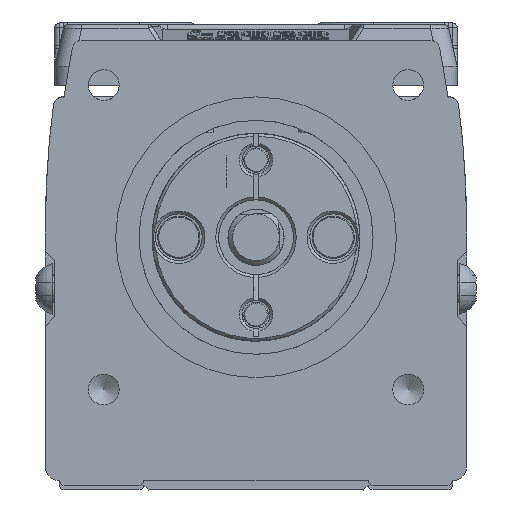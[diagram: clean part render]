
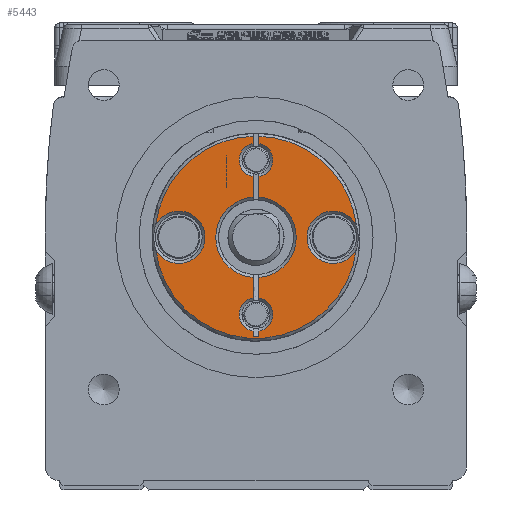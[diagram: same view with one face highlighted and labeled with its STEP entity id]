
A CAD part, left-side view. The second image highlights one B-rep face of the part: STEP entity #5443.
In plain terms, the highlighted planar face has unit normal (-1, 0, 0) as drawn and (1, 0, 0) by its records, which use the part's own axes.
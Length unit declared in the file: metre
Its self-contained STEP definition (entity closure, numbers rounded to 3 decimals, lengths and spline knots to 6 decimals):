
#5443=ADVANCED_FACE('',(#10995),#10996,.F.);
#10995=FACE_OUTER_BOUND('',#19060,.T.);
#10996=PLANE('',#19061);
#19060=EDGE_LOOP('',(#31991,#31992,#31993,#31994,#31995,#31996,#31997,#31998,#31999,#32000,#32001,#32002,#32003,#32004,#32005,#32006,#32007,#32008,#32009,#32010));
#19061=AXIS2_PLACEMENT_3D('',#32011,#32012,#32013);
#31991=ORIENTED_EDGE('',*,*,#42573,.F.);
#31992=ORIENTED_EDGE('',*,*,#42574,.T.);
#31993=ORIENTED_EDGE('',*,*,#42575,.F.);
#31994=ORIENTED_EDGE('',*,*,#41158,.F.);
#31995=ORIENTED_EDGE('',*,*,#38503,.T.);
#31996=ORIENTED_EDGE('',*,*,#42576,.T.);
#31997=ORIENTED_EDGE('',*,*,#42577,.F.);
#31998=ORIENTED_EDGE('',*,*,#39717,.F.);
#31999=ORIENTED_EDGE('',*,*,#42578,.F.);
#32000=ORIENTED_EDGE('',*,*,#41768,.T.);
#32001=ORIENTED_EDGE('',*,*,#39891,.F.);
#32002=ORIENTED_EDGE('',*,*,#40694,.F.);
#32003=ORIENTED_EDGE('',*,*,#40708,.F.);
#32004=ORIENTED_EDGE('',*,*,#40421,.F.);
#32005=ORIENTED_EDGE('',*,*,#39455,.F.);
#32006=ORIENTED_EDGE('',*,*,#40420,.F.);
#32007=ORIENTED_EDGE('',*,*,#42579,.F.);
#32008=ORIENTED_EDGE('',*,*,#40418,.F.);
#32009=ORIENTED_EDGE('',*,*,#40566,.T.);
#32010=ORIENTED_EDGE('',*,*,#39764,.F.);
#32011=CARTESIAN_POINT('',(0.0,0.0,0.));
#32012=DIRECTION('',(-1.0,0.,0.0));
#32013=DIRECTION('',(0.,-1.0,0.0));
#38503=EDGE_CURVE('',#44780,#44784,#44786,.F.);
#39455=EDGE_CURVE('',#46409,#46410,#46411,.T.);
#39717=EDGE_CURVE('',#46839,#46840,#46841,.T.);
#39764=EDGE_CURVE('',#46913,#46914,#46915,.T.);
#39891=EDGE_CURVE('',#47111,#47112,#47113,.F.);
#40418=EDGE_CURVE('',#47952,#47954,#47955,.T.);
#40420=EDGE_CURVE('',#47956,#46409,#47958,.T.);
#40421=EDGE_CURVE('',#46410,#47959,#47960,.T.);
#40566=EDGE_CURVE('',#47952,#46914,#48196,.F.);
#40694=EDGE_CURVE('',#48389,#47111,#48390,.T.);
#40708=EDGE_CURVE('',#47959,#48389,#48410,.T.);
#41158=EDGE_CURVE('',#44780,#49083,#49084,.T.);
#41768=EDGE_CURVE('',#49986,#47112,#49989,.T.);
#42573=EDGE_CURVE('',#51080,#46913,#51081,.F.);
#42574=EDGE_CURVE('',#51080,#51082,#51083,.T.);
#42575=EDGE_CURVE('',#49083,#51082,#51084,.F.);
#42576=EDGE_CURVE('',#44784,#51085,#51086,.T.);
#42577=EDGE_CURVE('',#46840,#51085,#51087,.F.);
#42578=EDGE_CURVE('',#49986,#46839,#51088,.T.);
#42579=EDGE_CURVE('',#47954,#47956,#51089,.T.);
#44780=VERTEX_POINT('',#54022);
#44784=VERTEX_POINT('',#54030);
#44786=LINE('',#54032,#54033);
#46409=VERTEX_POINT('',#56530);
#46410=VERTEX_POINT('',#56531);
#46411=CIRCLE('',#56532,0.0028);
#46839=VERTEX_POINT('',#57146);
#46840=VERTEX_POINT('',#57147);
#46841=CIRCLE('',#57148,0.0018);
#46913=VERTEX_POINT('',#57287);
#46914=VERTEX_POINT('',#57288);
#46915=CIRCLE('',#57289,0.0018);
#47111=VERTEX_POINT('',#57637);
#47112=VERTEX_POINT('',#57638);
#47113=LINE('',#57639,#57640);
#47952=VERTEX_POINT('',#58963);
#47954=VERTEX_POINT('',#58968);
#47955=CIRCLE('',#58969,0.0108);
#47956=VERTEX_POINT('',#58970);
#47958=CIRCLE('',#58977,0.0108);
#47959=VERTEX_POINT('',#58978);
#47960=CIRCLE('',#58979,0.0108);
#48196=LINE('',#59311,#59312);
#48389=VERTEX_POINT('',#59570);
#48390=CIRCLE('',#59571,0.0018);
#48410=LINE('',#59602,#59603);
#49083=VERTEX_POINT('',#60670);
#49084=CIRCLE('',#60671,0.0018);
#49986=VERTEX_POINT('',#62027);
#49989=CIRCLE('',#62033,0.0043);
#51080=VERTEX_POINT('',#63701);
#51081=LINE('',#63702,#63703);
#51082=VERTEX_POINT('',#63704);
#51083=CIRCLE('',#63705,0.0043);
#51084=LINE('',#63706,#63707);
#51085=VERTEX_POINT('',#63708);
#51086=LINE('',#63709,#63710);
#51087=LINE('',#63711,#63712);
#51088=LINE('',#63713,#63714);
#51089=CIRCLE('',#63715,0.0028);
#54022=CARTESIAN_POINT('',(0.,-0.010025,-0.0003));
#54030=CARTESIAN_POINT('',(0.,-0.010642,-0.0003));
#54032=CARTESIAN_POINT('',(0.0,0.0025,-0.0003));
#54033=VECTOR('',#66985,1.0);
#56530=CARTESIAN_POINT('',(0.,-0.001321,0.010719));
#56531=CARTESIAN_POINT('',(0.,0.001321,0.010719));
#56532=AXIS2_PLACEMENT_3D('',#68227,#68228,#68229);
#57146=CARTESIAN_POINT('',(0.,-0.006475,0.0003));
#57147=CARTESIAN_POINT('',(0.,-0.010025,0.0003));
#57148=AXIS2_PLACEMENT_3D('',#68583,#68584,#68585);
#57287=CARTESIAN_POINT('',(0.,0.006475,-0.0003));
#57288=CARTESIAN_POINT('',(0.,0.010025,-0.0003));
#57289=AXIS2_PLACEMENT_3D('',#68643,#68644,#68645);
#57637=CARTESIAN_POINT('',(0.0,0.006475,0.0003));
#57638=CARTESIAN_POINT('',(0.0,0.00429,0.0003));
#57639=CARTESIAN_POINT('',(0.0,0.0025,0.0003));
#57640=VECTOR('',#68814,1.0);
#58963=CARTESIAN_POINT('',(0.,0.010796,-0.0003));
#58968=CARTESIAN_POINT('',(0.,0.001321,-0.010719));
#58969=AXIS2_PLACEMENT_3D('',#69461,#69462,#69463);
#58970=CARTESIAN_POINT('',(0.,-0.001321,-0.010719));
#58977=AXIS2_PLACEMENT_3D('',#69464,#69465,#69466);
#58978=CARTESIAN_POINT('',(0.,0.010796,0.0003));
#58979=AXIS2_PLACEMENT_3D('',#69467,#69468,#69469);
#59311=CARTESIAN_POINT('',(0.0,0.0025,-0.0003));
#59312=VECTOR('',#69646,1.0);
#59570=CARTESIAN_POINT('',(0.,0.010025,0.0003));
#59571=AXIS2_PLACEMENT_3D('',#69810,#69811,#69812);
#59602=CARTESIAN_POINT('',(0.0,0.0,0.0003));
#59603=VECTOR('',#69824,1.0);
#60670=CARTESIAN_POINT('',(0.,-0.006475,-0.0003));
#60671=AXIS2_PLACEMENT_3D('',#70328,#70329,#70330);
#62027=CARTESIAN_POINT('',(0.,-0.00429,0.0003));
#62033=AXIS2_PLACEMENT_3D('',#71085,#71086,#71087);
#63701=CARTESIAN_POINT('',(0.,0.00429,-0.0003));
#63702=CARTESIAN_POINT('',(0.0,0.0,-0.0003));
#63703=VECTOR('',#71979,1.0);
#63704=CARTESIAN_POINT('',(0.,-0.00429,-0.0003));
#63705=AXIS2_PLACEMENT_3D('',#71980,#71981,#71982);
#63706=CARTESIAN_POINT('',(0.0,0.0,-0.0003));
#63707=VECTOR('',#71983,1.0);
#63708=CARTESIAN_POINT('',(0.,-0.010642,0.0003));
#63709=CARTESIAN_POINT('',(0.,-0.010642,0.0003));
#63710=VECTOR('',#71984,1.0);
#63711=CARTESIAN_POINT('',(0.0,0.0025,0.0003));
#63712=VECTOR('',#71985,1.0);
#63713=CARTESIAN_POINT('',(0.0,0.0,0.0003));
#63714=VECTOR('',#71986,1.0);
#63715=AXIS2_PLACEMENT_3D('',#71987,#71988,#71989);
#66985=DIRECTION('',(0.0,1.0,0.0));
#68227=CARTESIAN_POINT('',(0.0,0.,0.00825));
#68228=DIRECTION('',(1.0,0.,0.0));
#68229=DIRECTION('',(0.,1.0,0.0));
#68583=CARTESIAN_POINT('',(0.0,-0.00825,0.));
#68584=DIRECTION('',(1.0,0.0,0.0));
#68585=DIRECTION('',(0.0,0.0,-1.0));
#68643=CARTESIAN_POINT('',(0.0,0.00825,0.));
#68644=DIRECTION('',(1.0,0.0,0.0));
#68645=DIRECTION('',(0.0,0.0,-1.0));
#68814=DIRECTION('',(0.0,1.0,0.0));
#69461=CARTESIAN_POINT('',(0.,0.0,0.));
#69462=DIRECTION('',(-1.0,0.0,0.0));
#69463=DIRECTION('',(0.0,0.0,1.0));
#69464=CARTESIAN_POINT('',(0.,0.0,0.));
#69465=DIRECTION('',(-1.0,0.0,0.0));
#69466=DIRECTION('',(0.0,0.0,1.0));
#69467=CARTESIAN_POINT('',(0.,0.0,0.));
#69468=DIRECTION('',(-1.0,0.0,0.0));
#69469=DIRECTION('',(0.0,0.0,1.0));
#69646=DIRECTION('',(0.0,1.0,0.0));
#69810=CARTESIAN_POINT('',(0.0,0.00825,0.));
#69811=DIRECTION('',(1.0,0.0,0.0));
#69812=DIRECTION('',(0.0,0.0,-1.0));
#69824=DIRECTION('',(0.,-1.0,0.0));
#70328=CARTESIAN_POINT('',(0.0,-0.00825,0.));
#70329=DIRECTION('',(1.0,0.0,0.0));
#70330=DIRECTION('',(0.0,0.0,-1.0));
#71085=CARTESIAN_POINT('',(0.,0.,0.));
#71086=DIRECTION('',(-1.0,0.,0.0));
#71087=DIRECTION('',(0.,-1.0,0.0));
#71979=DIRECTION('',(0.,-1.0,0.0));
#71980=CARTESIAN_POINT('',(0.,0.,0.));
#71981=DIRECTION('',(-1.0,0.,0.0));
#71982=DIRECTION('',(0.,-1.0,0.0));
#71983=DIRECTION('',(0.,-1.0,0.0));
#71984=DIRECTION('',(0.0,0.0,1.0));
#71985=DIRECTION('',(0.0,1.0,0.0));
#71986=DIRECTION('',(0.,-1.0,0.0));
#71987=CARTESIAN_POINT('',(0.,0.,-0.00825));
#71988=DIRECTION('',(1.0,0.,0.0));
#71989=DIRECTION('',(0.,1.0,0.0));
